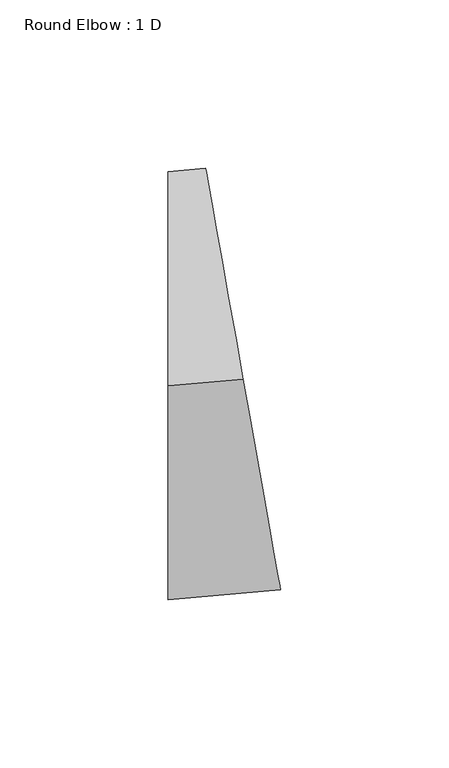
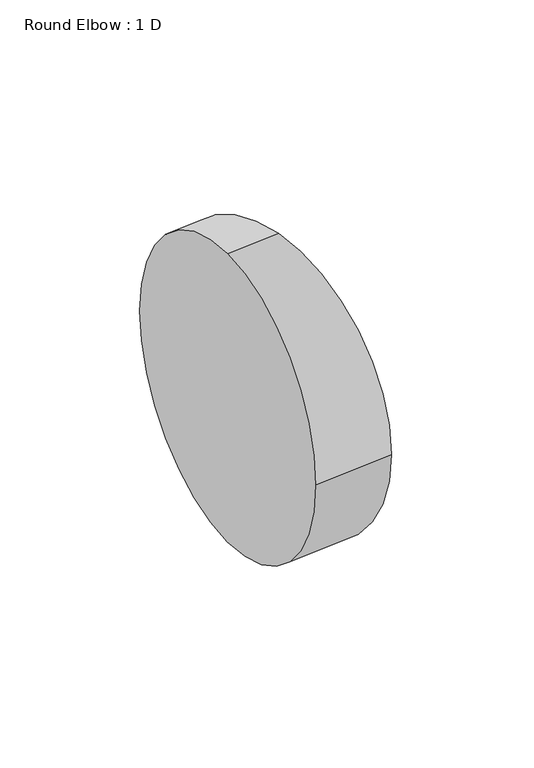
"""IFC4 building model written with IfcOpenShell, lengths in millimetres: duct fitting geometry, Round Elbow : 1 D."""

from ifc_helpers import new_model, si_unit, point, frame, origin, place, context, project, spatial, circle_curve, ellipse_curve, trimmed, source, transform, mapped, element, save
from ifc_brep_helpers import plane_surface, revolved_surface, advanced_brep


def round_elbow_1_d_311c5134(model_context):
    return source(origin(), model_context, "Body", "AdvancedBrep", [
        advanced_brep(
        [(-11.2057183, 0.0, 63.5), (-11.2057183, 63.5, 0.0), (-11.2057183, 0.0, -63.5), (-11.2057183, -63.5, 0.0), (11.0325878, 1.9621748, 63.5), (22.1517409, -60.5567379, 0.0), (11.0325878, 1.9621748, -63.5), (-0.0865653, 64.4810874, 0.0)],
        [
            (0, 1, circle_curve(frame((-11.2057183, 0.0, 0.0), z_axis=(-1.0, 0.0, 0.0), x_axis=(0.0, 1.0, 0.0)), 63.5)),
            (1, 2, circle_curve(frame((-11.2057183, 0.0, 0.0), z_axis=(-1.0, 0.0, 0.0), x_axis=(0.0, 1.0, 0.0)), 63.5)),
            (2, 3, circle_curve(frame((-11.2057183, 0.0, 0.0), z_axis=(-1.0, 0.0, 0.0), x_axis=(0.0, 1.0, 0.0)), 63.5)),
            (3, 0, circle_curve(frame((-11.2057183, 0.0, 0.0), z_axis=(-1.0, 0.0, 0.0), x_axis=(0.0, 1.0, 0.0)), 63.5)),
            (4, 5, circle_curve(frame((11.0325878, 1.9621748, 0.0), z_axis=(0.9845498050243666, 0.1751047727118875, 0.0), x_axis=(-0.1751047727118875, 0.9845498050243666, 0.0)), 63.5)),
            (5, 6, circle_curve(frame((11.0325878, 1.9621748, 0.0), z_axis=(0.9845498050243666, 0.1751047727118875, 0.0), x_axis=(-0.1751047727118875, 0.9845498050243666, 0.0)), 63.5)),
            (6, 7, circle_curve(frame((11.0325878, 1.9621748, 0.0), z_axis=(0.9845498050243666, 0.1751047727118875, 0.0), x_axis=(-0.1751047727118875, 0.9845498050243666, 0.0)), 63.5)),
            (7, 4, circle_curve(frame((11.0325878, 1.9621748, 0.0), z_axis=(0.9845498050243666, 0.1751047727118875, 0.0), x_axis=(-0.1751047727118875, 0.9845498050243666, 0.0)), 63.5)),
            (7, 1, circle_curve(frame((-11.2057183, 127.0, 0.0), z_axis=(0.0, 0.0, -1.0), x_axis=(0.0, -1.0, 0.0)), 63.5)),
            (0, 4, circle_curve(frame((-11.2057183, 127.0, 63.5), z_axis=(0.0, 0.0, 1.0), x_axis=(0.0, -1.0, 0.0)), 127.0)),
            (6, 2, circle_curve(frame((-11.2057183, 127.0, -63.5), z_axis=(0.0, 0.0, -1.0), x_axis=(0.0, -1.0, 0.0)), 127.0)),
            (5, 3, circle_curve(frame((-11.2057183, 127.0, 0.0), z_axis=(0.0, 0.0, -1.0), x_axis=(0.0, -1.0, 0.0)), 190.5)),
        ],
        [
            plane_surface(frame((-11.2057183, 0.0, 0.0), z_axis=(-1.0, 0.0, 0.0), x_axis=(0.0, 0.0, 1.0))),
            plane_surface(frame((11.0325878, 1.9621748, 0.0), z_axis=(0.9845498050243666, 0.17510477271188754, 0.0), x_axis=(0.0, 0.0, 1.0))),
            revolved_surface(trimmed(ellipse_curve(frame((-11.2057183, 0.0, 0.0), z_axis=(-1.0, 0.0, 0.0), x_axis=(0.0, 1.0, 0.0)), 63.5, 63.5), [point((-11.2057183, 0.0, 63.5))], [point((-11.2057183, 63.5, 0.0))], True, "CARTESIAN"), (-11.2057183, 127.0, 0.0), (0.0, 0.0, 1.0)),
            revolved_surface(trimmed(ellipse_curve(frame((-11.2057183, 0.0, 0.0), z_axis=(-1.0, 0.0, 0.0), x_axis=(0.0, 1.0, 0.0)), 63.5, 63.5), [point((-11.2057183, 63.5, 0.0))], [point((-11.2057183, 0.0, -63.5))], True, "CARTESIAN"), (-11.2057183, 127.0, 0.0), (0.0, 0.0, 1.0)),
            revolved_surface(trimmed(ellipse_curve(frame((-11.2057183, 0.0, 0.0), z_axis=(-1.0, 0.0, 0.0), x_axis=(0.0, 1.0, 0.0)), 63.5, 63.5), [point((-11.2057183, 0.0, -63.5))], [point((-11.2057183, -63.5, 0.0))], True, "CARTESIAN"), (-11.2057183, 127.0, 0.0), (0.0, 0.0, 1.0)),
            revolved_surface(trimmed(ellipse_curve(frame((-11.2057183, 0.0, 0.0), z_axis=(-1.0, 0.0, 0.0), x_axis=(0.0, 1.0, 0.0)), 63.5, 63.5), [point((-11.2057183, -63.5, 0.0))], [point((-11.2057183, 0.0, 63.5))], True, "CARTESIAN"), (-11.2057183, 127.0, 0.0), (0.0, 0.0, 1.0)),
        ],
        [
            (0, [[1, 2, 3, 4]]),
            (1, [[5, 6, 7, 8]]),
            (2, [[9, -1, 10, -8]]),
            (3, [[11, -2, -9, -7]]),
            (4, [[12, -3, -11, -6]]),
            (5, [[-10, -4, -12, -5]]),
        ],
    ),
    ])


if __name__ == "__main__":
    model = new_model("IFC4")
    model_context = context("Model", 3, world=origin())
    ifc_project = project(units=[si_unit("LENGTHUNIT", "METRE", prefix="MILLI")], contexts=[model_context])
    site = spatial("IfcSite", under=ifc_project)
    building = spatial("IfcBuilding", under=site)
    placement = place(None, origin())
    round_elbow_1_d_shape = round_elbow_1_d_311c5134(model_context)
    element("IfcDuctFitting", 1, ObjectType="Round Elbow : 1 D", at=placement, inside=building, context=model_context, shape_type="MappedRepresentation", body=[
        mapped(round_elbow_1_d_shape, transform((0.0, 0.0, 0.0), x_axis=(1.0, 0.0, 0.0), y_axis=(0.0, 1.0, 0.0), z_axis=(0.0, 0.0, 1.0))),
    ])
    save(model, "model.ifc")
